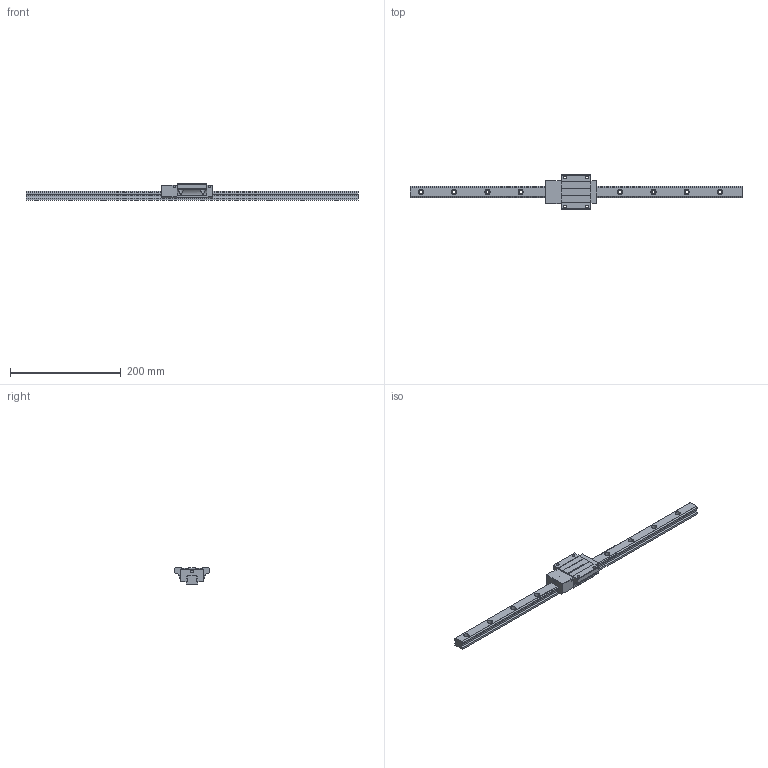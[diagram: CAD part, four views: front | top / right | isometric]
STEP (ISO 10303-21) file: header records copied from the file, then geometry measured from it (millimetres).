
FILE_DESCRIPTION (( 'STEP AP203' ), '1' );
FILE_NAME ('TRH20FN-BN.STEP', '2024-06-26T07:27:44', ( '' ), ( '' ), 'SwSTEP 2.0', 'SolidWorks 2022', '' );
FILE_SCHEMA (( 'CONFIG_CONTROL_DESIGN' ));
Length unit declared in the file: millimetre
Products named in the file (1): TRH20FN-BN
Bounding box: 600 x 63 x 30 mm (x, y, z)
Volume: 251876.7 mm3; surface area: 69202.1 mm2
Topology: 2 solids, 2 shells, 222 faces, 598 edges, 392 vertices
Faces by surface type: cylinder 126, plane 92, sphere 4
Entity records: 7691 total; most frequent: CARTESIAN_POINT 1835, DIRECTION 1242, ORIENTED_EDGE 1188, EDGE_CURVE 594, AXIS2_PLACEMENT_3D 451, VERTEX_POINT 392, VECTOR 340, LINE 340
